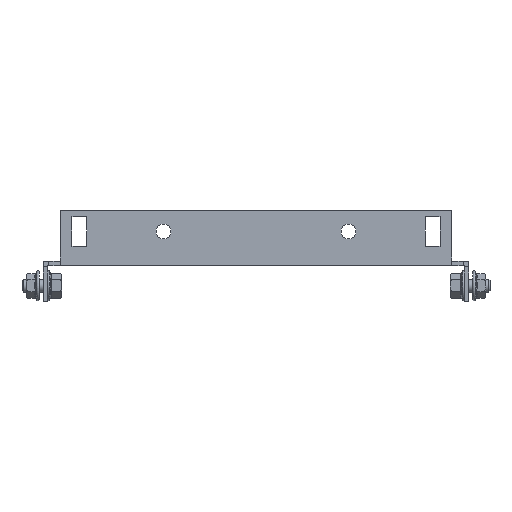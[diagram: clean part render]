
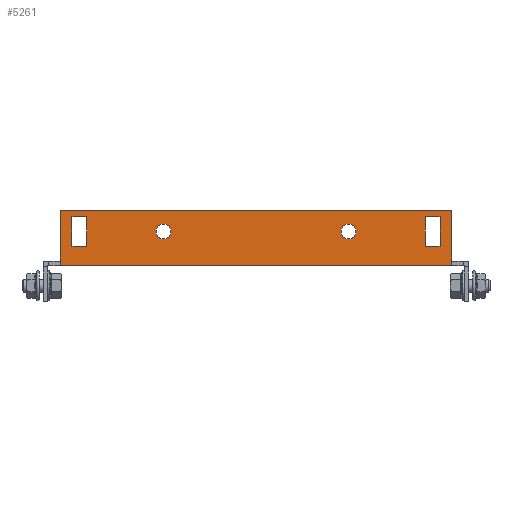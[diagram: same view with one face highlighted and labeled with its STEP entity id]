
A CAD part, front view. The second image highlights one B-rep face of the part: STEP entity #5261.
In plain terms, the highlighted planar face has unit normal (0, -1, 0).
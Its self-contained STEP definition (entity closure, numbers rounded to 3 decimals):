
#3726 = VERTEX_POINT('',#3727);
#3727 = CARTESIAN_POINT('',(92.,-84.5,0.));
#3733 = EDGE_CURVE('',#3734,#3726,#3736,.T.);
#3734 = VERTEX_POINT('',#3735);
#3735 = CARTESIAN_POINT('',(-92.,-84.5,0.));
#3736 = LINE('',#3737,#3738);
#3737 = CARTESIAN_POINT('',(-92.,-84.5,0.));
#3738 = VECTOR('',#3739,1.);
#3739 = DIRECTION('',(1.,-0.,-0.));
#5140 = VERTEX_POINT('',#5141);
#5141 = CARTESIAN_POINT('',(-92.,-84.5,2.6));
#5156 = EDGE_CURVE('',#5140,#3734,#5157,.T.);
#5157 = LINE('',#5158,#5159);
#5158 = CARTESIAN_POINT('',(-92.,-84.5,2.6));
#5159 = VECTOR('',#5160,1.);
#5160 = DIRECTION('',(0.,0.,-1.));
#5180 = VERTEX_POINT('',#5181);
#5181 = CARTESIAN_POINT('',(92.,-84.5,2.6));
#5187 = EDGE_CURVE('',#5180,#3726,#5188,.T.);
#5188 = LINE('',#5189,#5190);
#5189 = CARTESIAN_POINT('',(92.,-84.5,2.));
#5190 = VECTOR('',#5191,1.);
#5191 = DIRECTION('',(-0.,0.,-1.));
#5213 = VERTEX_POINT('',#5214);
#5214 = CARTESIAN_POINT('',(92.,-84.5,26.));
#5220 = EDGE_CURVE('',#5180,#5213,#5221,.T.);
#5221 = LINE('',#5222,#5223);
#5222 = CARTESIAN_POINT('',(92.,-84.5,26.));
#5223 = VECTOR('',#5224,1.);
#5224 = DIRECTION('',(0.,0.,1.));
#5235 = EDGE_CURVE('',#5236,#5140,#5238,.T.);
#5236 = VERTEX_POINT('',#5237);
#5237 = CARTESIAN_POINT('',(-92.,-84.5,26.));
#5238 = LINE('',#5239,#5240);
#5239 = CARTESIAN_POINT('',(-92.,-84.5,2.));
#5240 = VECTOR('',#5241,1.);
#5241 = DIRECTION('',(-0.,0.,-1.));
#5261 = ADVANCED_FACE('',(#5262,#5296,#5307,#5318,#5352),#5365,.F.);
#5262 = FACE_BOUND('',#5263,.T.);
#5263 = EDGE_LOOP('',(#5264,#5274,#5282,#5290));
#5264 = ORIENTED_EDGE('',*,*,#5265,.F.);
#5265 = EDGE_CURVE('',#5266,#5268,#5270,.T.);
#5266 = VERTEX_POINT('',#5267);
#5267 = CARTESIAN_POINT('',(86.5,-84.5,9.));
#5268 = VERTEX_POINT('',#5269);
#5269 = CARTESIAN_POINT('',(86.5,-84.5,23.));
#5270 = LINE('',#5271,#5272);
#5271 = CARTESIAN_POINT('',(86.5,-84.5,23.));
#5272 = VECTOR('',#5273,1.);
#5273 = DIRECTION('',(-0.,0.,1.));
#5274 = ORIENTED_EDGE('',*,*,#5275,.F.);
#5275 = EDGE_CURVE('',#5276,#5266,#5278,.T.);
#5276 = VERTEX_POINT('',#5277);
#5277 = CARTESIAN_POINT('',(79.5,-84.5,9.));
#5278 = LINE('',#5279,#5280);
#5279 = CARTESIAN_POINT('',(86.5,-84.5,9.));
#5280 = VECTOR('',#5281,1.);
#5281 = DIRECTION('',(1.,-0.,-0.));
#5282 = ORIENTED_EDGE('',*,*,#5283,.F.);
#5283 = EDGE_CURVE('',#5284,#5276,#5286,.T.);
#5284 = VERTEX_POINT('',#5285);
#5285 = CARTESIAN_POINT('',(79.5,-84.5,23.));
#5286 = LINE('',#5287,#5288);
#5287 = CARTESIAN_POINT('',(79.5,-84.5,9.));
#5288 = VECTOR('',#5289,1.);
#5289 = DIRECTION('',(-0.,0.,-1.));
#5290 = ORIENTED_EDGE('',*,*,#5291,.F.);
#5291 = EDGE_CURVE('',#5268,#5284,#5292,.T.);
#5292 = LINE('',#5293,#5294);
#5293 = CARTESIAN_POINT('',(79.5,-84.5,23.));
#5294 = VECTOR('',#5295,1.);
#5295 = DIRECTION('',(-1.,-0.,-0.));
#5296 = FACE_BOUND('',#5297,.T.);
#5297 = EDGE_LOOP('',(#5298));
#5298 = ORIENTED_EDGE('',*,*,#5299,.F.);
#5299 = EDGE_CURVE('',#5300,#5300,#5302,.T.);
#5300 = VERTEX_POINT('',#5301);
#5301 = CARTESIAN_POINT('',(43.5,-84.5,19.5));
#5302 = CIRCLE('',#5303,3.5);
#5303 = AXIS2_PLACEMENT_3D('',#5304,#5305,#5306);
#5304 = CARTESIAN_POINT('',(43.5,-84.5,16.));
#5305 = DIRECTION('',(0.,-1.,0.));
#5306 = DIRECTION('',(0.,0.,1.));
#5307 = FACE_BOUND('',#5308,.T.);
#5308 = EDGE_LOOP('',(#5309));
#5309 = ORIENTED_EDGE('',*,*,#5310,.F.);
#5310 = EDGE_CURVE('',#5311,#5311,#5313,.T.);
#5311 = VERTEX_POINT('',#5312);
#5312 = CARTESIAN_POINT('',(-43.5,-84.5,12.5));
#5313 = CIRCLE('',#5314,3.5);
#5314 = AXIS2_PLACEMENT_3D('',#5315,#5316,#5317);
#5315 = CARTESIAN_POINT('',(-43.5,-84.5,16.));
#5316 = DIRECTION('',(0.,-1.,0.));
#5317 = DIRECTION('',(0.,0.,-1.));
#5318 = FACE_BOUND('',#5319,.T.);
#5319 = EDGE_LOOP('',(#5320,#5330,#5338,#5346));
#5320 = ORIENTED_EDGE('',*,*,#5321,.F.);
#5321 = EDGE_CURVE('',#5322,#5324,#5326,.T.);
#5322 = VERTEX_POINT('',#5323);
#5323 = CARTESIAN_POINT('',(-86.5,-84.5,23.));
#5324 = VERTEX_POINT('',#5325);
#5325 = CARTESIAN_POINT('',(-86.5,-84.5,9.));
#5326 = LINE('',#5327,#5328);
#5327 = CARTESIAN_POINT('',(-86.5,-84.5,9.));
#5328 = VECTOR('',#5329,1.);
#5329 = DIRECTION('',(-0.,0.,-1.));
#5330 = ORIENTED_EDGE('',*,*,#5331,.F.);
#5331 = EDGE_CURVE('',#5332,#5322,#5334,.T.);
#5332 = VERTEX_POINT('',#5333);
#5333 = CARTESIAN_POINT('',(-79.5,-84.5,23.));
#5334 = LINE('',#5335,#5336);
#5335 = CARTESIAN_POINT('',(-86.5,-84.5,23.));
#5336 = VECTOR('',#5337,1.);
#5337 = DIRECTION('',(-1.,-0.,-0.));
#5338 = ORIENTED_EDGE('',*,*,#5339,.F.);
#5339 = EDGE_CURVE('',#5340,#5332,#5342,.T.);
#5340 = VERTEX_POINT('',#5341);
#5341 = CARTESIAN_POINT('',(-79.5,-84.5,9.));
#5342 = LINE('',#5343,#5344);
#5343 = CARTESIAN_POINT('',(-79.5,-84.5,23.));
#5344 = VECTOR('',#5345,1.);
#5345 = DIRECTION('',(-0.,0.,1.));
#5346 = ORIENTED_EDGE('',*,*,#5347,.F.);
#5347 = EDGE_CURVE('',#5324,#5340,#5348,.T.);
#5348 = LINE('',#5349,#5350);
#5349 = CARTESIAN_POINT('',(-79.5,-84.5,9.));
#5350 = VECTOR('',#5351,1.);
#5351 = DIRECTION('',(1.,-0.,-0.));
#5352 = FACE_BOUND('',#5353,.T.);
#5353 = EDGE_LOOP('',(#5354,#5355,#5356,#5357,#5358,#5359));
#5354 = ORIENTED_EDGE('',*,*,#5235,.T.);
#5355 = ORIENTED_EDGE('',*,*,#5156,.T.);
#5356 = ORIENTED_EDGE('',*,*,#3733,.T.);
#5357 = ORIENTED_EDGE('',*,*,#5187,.F.);
#5358 = ORIENTED_EDGE('',*,*,#5220,.T.);
#5359 = ORIENTED_EDGE('',*,*,#5360,.T.);
#5360 = EDGE_CURVE('',#5213,#5236,#5361,.T.);
#5361 = LINE('',#5362,#5363);
#5362 = CARTESIAN_POINT('',(-92.,-84.5,26.));
#5363 = VECTOR('',#5364,1.);
#5364 = DIRECTION('',(-1.,-0.,-0.));
#5365 = PLANE('',#5366);
#5366 = AXIS2_PLACEMENT_3D('',#5367,#5368,#5369);
#5367 = CARTESIAN_POINT('',(92.,-84.5,2.));
#5368 = DIRECTION('',(-0.,1.,0.));
#5369 = DIRECTION('',(0.,0.,1.));
